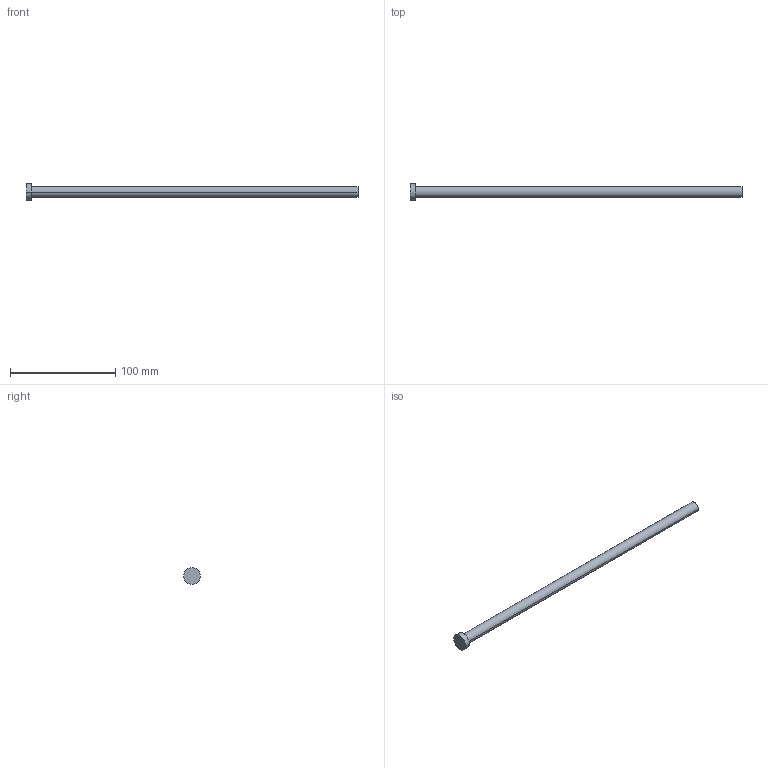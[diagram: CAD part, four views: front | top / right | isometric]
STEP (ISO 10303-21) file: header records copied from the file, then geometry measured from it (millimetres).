
FILE_DESCRIPTION (( 'STEP AP214' ), '1' );
FILE_NAME ('A-10,2x315.STEP', '2020-05-29T15:58:54', ( 'August' ), ( '' ), 'SwSTEP 2.0', 'SolidWorks 2018', '' );
FILE_SCHEMA (( 'AUTOMOTIVE_DESIGN' ));
Length unit declared in the file: millimetre
Products named in the file (1): A-10,2x315
Bounding box: 315 x 16 x 16 mm (x, y, z)
Volume: 26338 mm3; surface area: 10580.4 mm2
Topology: 1 solids, 1 shells, 9 faces, 16 edges, 10 vertices
Faces by surface type: cylinder 4, plane 3, torus 2
Entity records: 260 total; most frequent: DIRECTION 48, CARTESIAN_POINT 36, ORIENTED_EDGE 32, AXIS2_PLACEMENT_3D 22, EDGE_CURVE 16, CIRCLE 12, VERTEX_POINT 10, EDGE_LOOP 10
